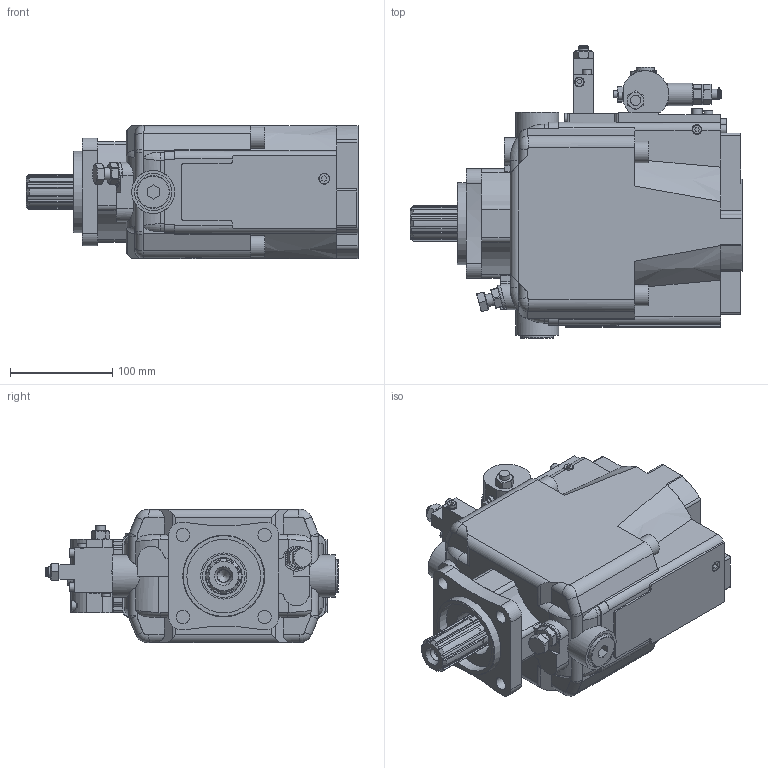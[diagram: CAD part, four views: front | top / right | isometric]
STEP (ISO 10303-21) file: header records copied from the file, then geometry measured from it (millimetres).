
FILE_DESCRIPTION(/* description */ ('Unknown'),/* implementation_level */ '2;1');
FILE_NAME(/* name */ 'V60N-130-L-Zusatzbohrung',/* time_stamp */ '2018-01-10T16:33:35+01:00',/* author */ ('Unknown'),/* organization */ ('Unknown'),/* preprocessor_version */ 'ST-DEVELOPER v16.7',/* originating_system */ 'DEX',/* authorisation */ $);
FILE_SCHEMA (('CONFIG_CONTROL_DESIGN'));
Length unit declared in the file: millimetre
Products named in the file (1): V60N-130-L-Zusatzbohrung
Bounding box: 324.5 x 286 x 130.24 mm (x, y, z)
Volume: 3476184.5 mm3; surface area: 485000.6 mm2
Topology: 1 solids, 35 shells, 1218 faces, 2866 edges, 1862 vertices
Faces by surface type: plane 694, cylinder 407, cone 91, torus 22, sphere 4
Full cylindrical faces by diameter (mm): 2.6 x1, 2.8 x6, 3 x2, 3.2 x4, 3.5 x2, 4 x5, 4.4 x2, 5 x10, 5.4 x2, 5.5 x1, 6 x9, 6.4 x2, 6.5 x1, 6.8 x1, 7 x10, 7.5 x5, 7.98 x1, 8 x7, 8.376 x4, 8.5 x7, 8.6 x1, 9 x4, 9.5 x5, 9.9 x4, 10 x13, 10.5 x6, 11 x3, 12 x5, 13 x6, 13.16 x3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
Entity records: 51385 total; most frequent: CARTESIAN_POINT 15927, DIRECTION 5652, ORIENTED_EDGE 5120, EDGE_CURVE 2560, AXIS2_PLACEMENT_3D 2157, VERTEX_POINT 1783, FACE_BOUND 1619, EDGE_LOOP 1618
